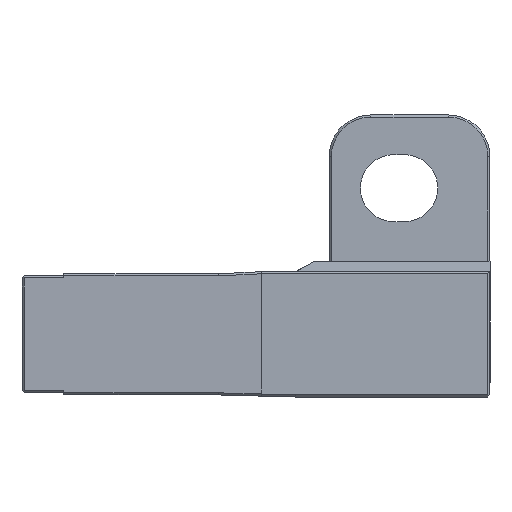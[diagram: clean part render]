
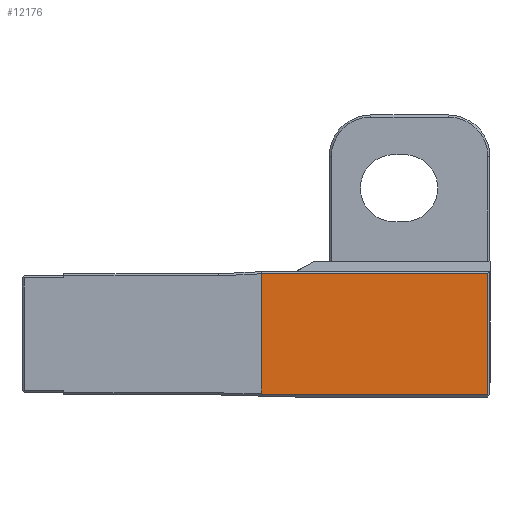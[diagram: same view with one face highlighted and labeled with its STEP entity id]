
A CAD part, left-side view. The second image highlights one B-rep face of the part: STEP entity #12176.
In plain terms, the highlighted planar face has unit normal (-1, 0, 0).
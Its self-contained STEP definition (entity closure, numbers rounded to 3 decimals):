
#651 = VECTOR ( 'NONE', #3726, 1000. ) ;
#719 = EDGE_CURVE ( 'NONE', #12148, #13771, #12219, .T. ) ;
#991 = CARTESIAN_POINT ( 'NONE',  ( 16.7, 10.942, -2.856 ) ) ;
#1251 = LINE ( 'NONE', #6563, #8611 ) ;
#1426 = CARTESIAN_POINT ( 'NONE',  ( 16.7, 22.382, -2.347 ) ) ;
#1587 = ORIENTED_EDGE ( 'NONE', *, *, #10836, .F. ) ;
#1756 = CARTESIAN_POINT ( 'NONE',  ( 16.7, 9.299, -2.9 ) ) ;
#2137 = CARTESIAN_POINT ( 'NONE',  ( 16.7, 10.942, 2.9 ) ) ;
#2936 = CARTESIAN_POINT ( 'NONE',  ( 16.7, 22.4, -3. ) ) ;
#3667 = CARTESIAN_POINT ( 'NONE',  ( 16.7, 0.1, -2.9 ) ) ;
#3726 = DIRECTION ( 'NONE',  ( 0., 0.999, 0.044 ) ) ;
#3775 = DIRECTION ( 'NONE',  ( 1., 0., 0. ) ) ;
#3818 = EDGE_CURVE ( 'NONE', #11829, #12148, #4175, .T. ) ;
#3836 = FACE_OUTER_BOUND ( 'NONE', #12126, .T. ) ;
#3908 = PLANE ( 'NONE',  #10852 ) ;
#3952 = EDGE_CURVE ( 'NONE', #13771, #6075, #12136, .T. ) ;
#4175 = LINE ( 'NONE', #8454, #5285 ) ;
#4355 = EDGE_CURVE ( 'NONE', #12888, #13565, #6592, .T. ) ;
#4381 = DIRECTION ( 'NONE',  ( 0., 0., 1. ) ) ;
#4492 = CARTESIAN_POINT ( 'NONE',  ( 16.7, 22.388, -2.546 ) ) ;
#5285 = VECTOR ( 'NONE', #12738, 1000. ) ;
#5335 = CARTESIAN_POINT ( 'NONE',  ( 16.7, 22.4, 2.9 ) ) ;
#5428 = VECTOR ( 'NONE', #6462, 1000. ) ;
#5630 = ORIENTED_EDGE ( 'NONE', *, *, #11822, .F. ) ;
#5777 = CARTESIAN_POINT ( 'NONE',  ( 16.7, 12.953, 2.767 ) ) ;
#6075 = VERTEX_POINT ( 'NONE', #991 ) ;
#6462 = DIRECTION ( 'NONE',  ( 0., -1., 0. ) ) ;
#6563 = CARTESIAN_POINT ( 'NONE',  ( 16.7, 10.942, -2.9 ) ) ;
#6592 = LINE ( 'NONE', #5335, #5428 ) ;
#6684 = DIRECTION ( 'NONE',  ( 0., 1., 0.027 ) ) ;
#6700 = ORIENTED_EDGE ( 'NONE', *, *, #3818, .F. ) ;
#7196 = CARTESIAN_POINT ( 'NONE',  ( 16.7, 10.939, -2.856 ) ) ;
#8022 = DIRECTION ( 'NONE',  ( 0., 0., -1. ) ) ;
#8116 = DIRECTION ( 'NONE',  ( 0., 1., 0. ) ) ;
#8454 = CARTESIAN_POINT ( 'NONE',  ( 16.7, 22.4, -2.9 ) ) ;
#8611 = VECTOR ( 'NONE', #4381, 1000. ) ;
#8923 = LINE ( 'NONE', #3667, #11746 ) ;
#9035 = ORIENTED_EDGE ( 'NONE', *, *, #3952, .F. ) ;
#9275 = ORIENTED_EDGE ( 'NONE', *, *, #719, .F. ) ;
#9492 = VERTEX_POINT ( 'NONE', #2137 ) ;
#10327 = CARTESIAN_POINT ( 'NONE',  ( 16.7, 10.94, 2.9 ) ) ;
#10821 = LINE ( 'NONE', #5777, #11086 ) ;
#10836 = EDGE_CURVE ( 'NONE', #13565, #11829, #8923, .T. ) ;
#10852 = AXIS2_PLACEMENT_3D ( 'NONE', #2936, #3775, #8116 ) ;
#11001 = VECTOR ( 'NONE', #6684, 1000. ) ;
#11086 = VECTOR ( 'NONE', #11938, 1000. ) ;
#11467 = ORIENTED_EDGE ( 'NONE', *, *, #12826, .F. ) ;
#11746 = VECTOR ( 'NONE', #8022, 1000. ) ;
#11822 = EDGE_CURVE ( 'NONE', #6075, #9492, #1251, .T. ) ;
#11829 = VERTEX_POINT ( 'NONE', #12025 ) ;
#11938 = DIRECTION ( 'NONE',  ( 0., -0.998, 0.066 ) ) ;
#11958 = CARTESIAN_POINT ( 'NONE',  ( 16.7, 0.1, 2.9 ) ) ;
#12025 = CARTESIAN_POINT ( 'NONE',  ( 16.7, 0.1, -2.9 ) ) ;
#12126 = EDGE_LOOP ( 'NONE', ( #13535, #11467, #5630, #9035, #9275, #6700, #1587 ) ) ;
#12136 = LINE ( 'NONE', #1426, #651 ) ;
#12148 = VERTEX_POINT ( 'NONE', #1756 ) ;
#12176 = ADVANCED_FACE ( 'NONE', ( #3836 ), #3908, .F. ) ;
#12219 = LINE ( 'NONE', #4492, #11001 ) ;
#12738 = DIRECTION ( 'NONE',  ( 0., 1., 0. ) ) ;
#12826 = EDGE_CURVE ( 'NONE', #9492, #12888, #10821, .T. ) ;
#12888 = VERTEX_POINT ( 'NONE', #10327 ) ;
#13535 = ORIENTED_EDGE ( 'NONE', *, *, #4355, .F. ) ;
#13565 = VERTEX_POINT ( 'NONE', #11958 ) ;
#13771 = VERTEX_POINT ( 'NONE', #7196 ) ;
